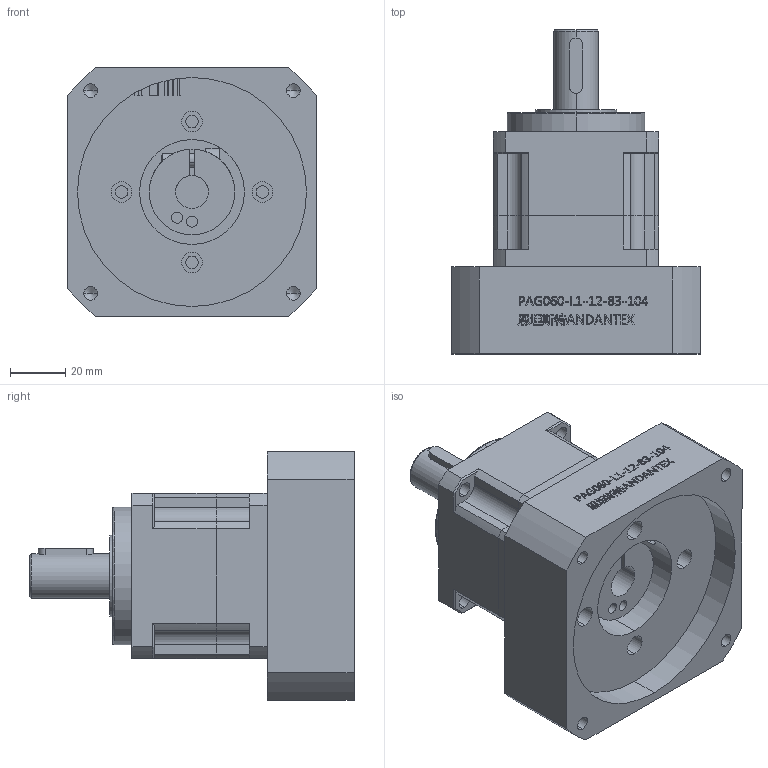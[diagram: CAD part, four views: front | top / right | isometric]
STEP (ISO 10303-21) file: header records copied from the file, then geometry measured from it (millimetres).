
FILE_DESCRIPTION (( 'STEP AP203' ), '1' );
FILE_NAME ('PAG060-L1-12-83-104準梓.STEP', '2024-05-07T03:03:19', ( 'Windows User' ), ( 'P R C' ), 'SwSTEP 2.0', 'SolidWorks 2016', '' );
FILE_SCHEMA (( 'CONFIG_CONTROL_DESIGN' ));
Length unit declared in the file: millimetre
Products named in the file (6): PAG060-L1-12-83-104準梓; PAG60俋倛芞奻裔啣_72T; PAG60外形图下盖板-分体-12; 邧埴瑩 5x5x20; 囀鞠褒蹟佪-M5℅16; PAG60-LJ 83-M6-104-LR42
Assembly tree (5 placements, depth 2):
  PAG060-L1-12-83-104準梓
    PAG60俋倛芞奻裔啣_72T
    PAG60外形图下盖板-分体-12
    邧埴瑩 5x5x20
    囀鞠褒蹟佪-M5℅16
    PAG60-LJ 83-M6-104-LR42
Bounding box: 90 x 117.5 x 90 mm (x, y, z)
Volume: 349912.8 mm3; surface area: 73375.2 mm2
Topology: 5 solids, 5 shells, 861 faces, 2253 edges, 1480 vertices
Faces by surface type: plane 517, bspline 166, cylinder 150, cone 28
Entity records: 33945 total; most frequent: CARTESIAN_POINT 13016, ORIENTED_EDGE 4470, DIRECTION 3613, EDGE_CURVE 2235, VECTOR 1559, LINE 1559, VERTEX_POINT 1480, AXIS2_PLACEMENT_3D 1027
